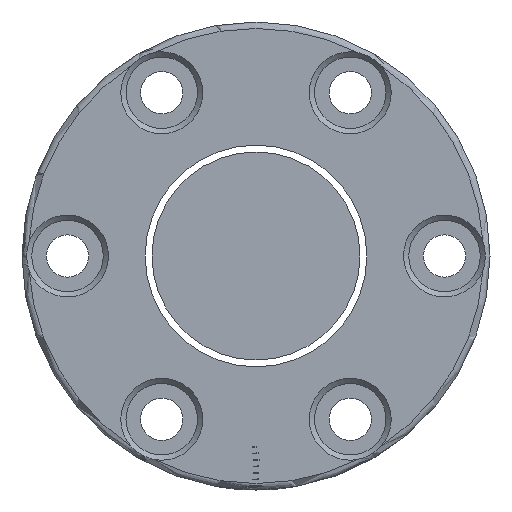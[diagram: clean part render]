
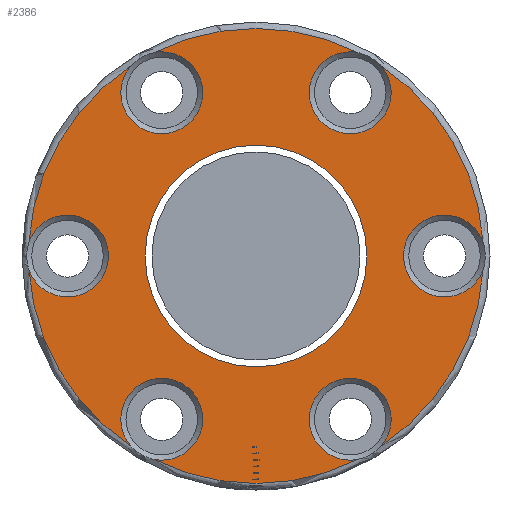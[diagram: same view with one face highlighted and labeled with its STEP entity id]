
A CAD part, left-side view. The second image highlights one B-rep face of the part: STEP entity #2386.
In plain terms, the highlighted planar face has unit normal (-1, 0, 0).
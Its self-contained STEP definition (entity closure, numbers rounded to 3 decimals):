
#36 = EDGE_CURVE ( 'NONE', #1651, #1368, #3126, .T. ) ;
#91 = CIRCLE ( 'NONE', #2336, 6.3 ) ;
#126 = AXIS2_PLACEMENT_3D ( 'NONE', #2806, #2499, #2731 ) ;
#131 = CIRCLE ( 'NONE', #2838, 6.3 ) ;
#209 = DIRECTION ( 'NONE',  ( 0., -1., 0. ) ) ;
#220 = CIRCLE ( 'NONE', #3279, 35. ) ;
#298 = CARTESIAN_POINT ( 'NONE',  ( -87., 17.05, 0. ) ) ;
#315 = EDGE_LOOP ( 'NONE', ( #801, #2531, #2069, #1888, #1357, #2563, #2516, #2307, #3355, #3373, #2617, #809 ) ) ;
#335 = EDGE_CURVE ( 'NONE', #3191, #1022, #2951, .T. ) ;
#364 = DIRECTION ( 'NONE',  ( -1., 0., 0. ) ) ;
#373 = CARTESIAN_POINT ( 'NONE',  ( -87., 29., 0. ) ) ;
#383 = DIRECTION ( 'NONE',  ( 0., -1., 0. ) ) ;
#403 = EDGE_CURVE ( 'NONE', #2170, #1335, #2781, .T. ) ;
#457 = CARTESIAN_POINT ( 'NONE',  ( -87., -15.641, -31.31 ) ) ;
#525 = VERTEX_POINT ( 'NONE', #811 ) ;
#559 = DIRECTION ( 'NONE',  ( 1., 0., 0. ) ) ;
#572 = CARTESIAN_POINT ( 'NONE',  ( -87., 14.5, 25.115 ) ) ;
#585 = FACE_BOUND ( 'NONE', #2819, .T. ) ;
#592 = CARTESIAN_POINT ( 'NONE',  ( -87., 19.295, 29.201 ) ) ;
#666 = DIRECTION ( 'NONE',  ( -1., 0., 0. ) ) ;
#667 = DIRECTION ( 'NONE',  ( 1., 0., 0. ) ) ;
#693 = EDGE_CURVE ( 'NONE', #3339, #3191, #2254, .T. ) ;
#708 = AXIS2_PLACEMENT_3D ( 'NONE', #373, #995, #2920 ) ;
#801 = ORIENTED_EDGE ( 'NONE', *, *, #2070, .T. ) ;
#809 = ORIENTED_EDGE ( 'NONE', *, *, #2534, .T. ) ;
#811 = CARTESIAN_POINT ( 'NONE',  ( -87., 15.641, -31.31 ) ) ;
#854 = CIRCLE ( 'NONE', #2860, 35. ) ;
#942 = AXIS2_PLACEMENT_3D ( 'NONE', #1253, #2106, #3234 ) ;
#988 = CARTESIAN_POINT ( 'NONE',  ( -87., -34.936, -2.109 ) ) ;
#995 = DIRECTION ( 'NONE',  ( 1., 0., 0. ) ) ;
#1022 = VERTEX_POINT ( 'NONE', #2017 ) ;
#1171 = ORIENTED_EDGE ( 'NONE', *, *, #1355, .T. ) ;
#1177 = DIRECTION ( 'NONE',  ( -1., 0., 0. ) ) ;
#1212 = DIRECTION ( 'NONE',  ( 0., -1., 0. ) ) ;
#1253 = CARTESIAN_POINT ( 'NONE',  ( -87., 0., 0. ) ) ;
#1293 = DIRECTION ( 'NONE',  ( 1., 0., 0. ) ) ;
#1300 = DIRECTION ( 'NONE',  ( -1., 0., 0. ) ) ;
#1310 = DIRECTION ( 'NONE',  ( 1., 0., 0. ) ) ;
#1335 = VERTEX_POINT ( 'NONE', #2687 ) ;
#1354 = CIRCLE ( 'NONE', #3579, 35. ) ;
#1355 = EDGE_CURVE ( 'NONE', #3120, #3120, #1474, .T. ) ;
#1357 = ORIENTED_EDGE ( 'NONE', *, *, #3270, .T. ) ;
#1368 = VERTEX_POINT ( 'NONE', #2942 ) ;
#1373 = DIRECTION ( 'NONE',  ( 1., 0., 0. ) ) ;
#1474 = CIRCLE ( 'NONE', #1535, 17.05 ) ;
#1501 = CARTESIAN_POINT ( 'NONE',  ( -87., -34.936, 2.109 ) ) ;
#1509 = DIRECTION ( 'NONE',  ( 0., -1., 0. ) ) ;
#1535 = AXIS2_PLACEMENT_3D ( 'NONE', #1813, #667, #2923 ) ;
#1584 = DIRECTION ( 'NONE',  ( 0., -1., 0. ) ) ;
#1633 = VERTEX_POINT ( 'NONE', #988 ) ;
#1651 = VERTEX_POINT ( 'NONE', #457 ) ;
#1695 = DIRECTION ( 'NONE',  ( 0., -1., 0. ) ) ;
#1713 = CIRCLE ( 'NONE', #126, 35. ) ;
#1725 = CARTESIAN_POINT ( 'NONE',  ( -87., 36., 0. ) ) ;
#1757 = DIRECTION ( 'NONE',  ( 0., -1., 0. ) ) ;
#1796 = DIRECTION ( 'NONE',  ( 0., -1., 0. ) ) ;
#1813 = CARTESIAN_POINT ( 'NONE',  ( -87., 0., 0. ) ) ;
#1862 = DIRECTION ( 'NONE',  ( -1., 0., 0. ) ) ;
#1869 = EDGE_CURVE ( 'NONE', #1022, #2788, #1713, .T. ) ;
#1888 = ORIENTED_EDGE ( 'NONE', *, *, #3387, .T. ) ;
#1965 = VERTEX_POINT ( 'NONE', #2459 ) ;
#2002 = DIRECTION ( 'NONE',  ( 1., 0., 0. ) ) ;
#2006 = FACE_OUTER_BOUND ( 'NONE', #315, .T. ) ;
#2017 = CARTESIAN_POINT ( 'NONE',  ( -87., 34.936, -2.109 ) ) ;
#2051 = DIRECTION ( 'NONE',  ( 0., -1., 0. ) ) ;
#2067 = CARTESIAN_POINT ( 'NONE',  ( -87., 0., 0. ) ) ;
#2069 = ORIENTED_EDGE ( 'NONE', *, *, #403, .T. ) ;
#2070 = EDGE_CURVE ( 'NONE', #1633, #2271, #131, .T. ) ;
#2106 = DIRECTION ( 'NONE',  ( -1., 0., 0. ) ) ;
#2130 = AXIS2_PLACEMENT_3D ( 'NONE', #2335, #666, #2051 ) ;
#2170 = VERTEX_POINT ( 'NONE', #2896 ) ;
#2200 = EDGE_CURVE ( 'NONE', #2271, #2170, #3133, .T. ) ;
#2254 = CIRCLE ( 'NONE', #2130, 35. ) ;
#2271 = VERTEX_POINT ( 'NONE', #1501 ) ;
#2307 = ORIENTED_EDGE ( 'NONE', *, *, #1869, .T. ) ;
#2335 = CARTESIAN_POINT ( 'NONE',  ( -87., 0., 0. ) ) ;
#2336 = AXIS2_PLACEMENT_3D ( 'NONE', #2502, #1373, #2735 ) ;
#2386 = ADVANCED_FACE ( 'NONE', ( #2006, #585 ), #2909, .T. ) ;
#2459 = CARTESIAN_POINT ( 'NONE',  ( -87., 15.641, 31.31 ) ) ;
#2499 = DIRECTION ( 'NONE',  ( -1., 0., 0. ) ) ;
#2502 = CARTESIAN_POINT ( 'NONE',  ( -87., 14.5, -25.115 ) ) ;
#2516 = ORIENTED_EDGE ( 'NONE', *, *, #335, .T. ) ;
#2531 = ORIENTED_EDGE ( 'NONE', *, *, #2200, .T. ) ;
#2534 = EDGE_CURVE ( 'NONE', #1368, #1633, #1354, .T. ) ;
#2563 = ORIENTED_EDGE ( 'NONE', *, *, #693, .T. ) ;
#2617 = ORIENTED_EDGE ( 'NONE', *, *, #36, .T. ) ;
#2627 = AXIS2_PLACEMENT_3D ( 'NONE', #572, #559, #1695 ) ;
#2687 = CARTESIAN_POINT ( 'NONE',  ( -87., -15.641, 31.31 ) ) ;
#2731 = DIRECTION ( 'NONE',  ( 0., -1., 0. ) ) ;
#2735 = DIRECTION ( 'NONE',  ( 0., -1., 0. ) ) ;
#2772 = CARTESIAN_POINT ( 'NONE',  ( -87., 34.936, 2.109 ) ) ;
#2781 = CIRCLE ( 'NONE', #3250, 6.3 ) ;
#2788 = VERTEX_POINT ( 'NONE', #3291 ) ;
#2806 = CARTESIAN_POINT ( 'NONE',  ( -87., 0., 0. ) ) ;
#2819 = EDGE_LOOP ( 'NONE', ( #1171 ) ) ;
#2838 = AXIS2_PLACEMENT_3D ( 'NONE', #3444, #2002, #1757 ) ;
#2860 = AXIS2_PLACEMENT_3D ( 'NONE', #3254, #1862, #1584 ) ;
#2896 = CARTESIAN_POINT ( 'NONE',  ( -87., -19.295, 29.201 ) ) ;
#2909 = PLANE ( 'NONE',  #3323 ) ;
#2920 = DIRECTION ( 'NONE',  ( 0., -1., 0. ) ) ;
#2923 = DIRECTION ( 'NONE',  ( 0., 1., 0. ) ) ;
#2942 = CARTESIAN_POINT ( 'NONE',  ( -87., -19.295, -29.201 ) ) ;
#2951 = CIRCLE ( 'NONE', #708, 6.3 ) ;
#2956 = CARTESIAN_POINT ( 'NONE',  ( -87., -14.5, -25.115 ) ) ;
#2965 = EDGE_CURVE ( 'NONE', #525, #1651, #854, .T. ) ;
#3010 = CARTESIAN_POINT ( 'NONE',  ( -87., -14.5, 25.115 ) ) ;
#3120 = VERTEX_POINT ( 'NONE', #298 ) ;
#3126 = CIRCLE ( 'NONE', #3313, 6.3 ) ;
#3133 = CIRCLE ( 'NONE', #942, 35. ) ;
#3191 = VERTEX_POINT ( 'NONE', #2772 ) ;
#3234 = DIRECTION ( 'NONE',  ( 0., -1., 0. ) ) ;
#3250 = AXIS2_PLACEMENT_3D ( 'NONE', #3010, #1310, #209 ) ;
#3254 = CARTESIAN_POINT ( 'NONE',  ( -87., 0., 0. ) ) ;
#3270 = EDGE_CURVE ( 'NONE', #1965, #3339, #3399, .T. ) ;
#3279 = AXIS2_PLACEMENT_3D ( 'NONE', #2067, #1177, #1212 ) ;
#3291 = CARTESIAN_POINT ( 'NONE',  ( -87., 19.295, -29.201 ) ) ;
#3313 = AXIS2_PLACEMENT_3D ( 'NONE', #2956, #1293, #1509 ) ;
#3323 = AXIS2_PLACEMENT_3D ( 'NONE', #1725, #364, #383 ) ;
#3339 = VERTEX_POINT ( 'NONE', #592 ) ;
#3355 = ORIENTED_EDGE ( 'NONE', *, *, #3568, .T. ) ;
#3373 = ORIENTED_EDGE ( 'NONE', *, *, #2965, .T. ) ;
#3387 = EDGE_CURVE ( 'NONE', #1335, #1965, #220, .T. ) ;
#3399 = CIRCLE ( 'NONE', #2627, 6.3 ) ;
#3444 = CARTESIAN_POINT ( 'NONE',  ( -87., -29., 0. ) ) ;
#3538 = CARTESIAN_POINT ( 'NONE',  ( -87., 0., 0. ) ) ;
#3568 = EDGE_CURVE ( 'NONE', #2788, #525, #91, .T. ) ;
#3579 = AXIS2_PLACEMENT_3D ( 'NONE', #3538, #1300, #1796 ) ;
